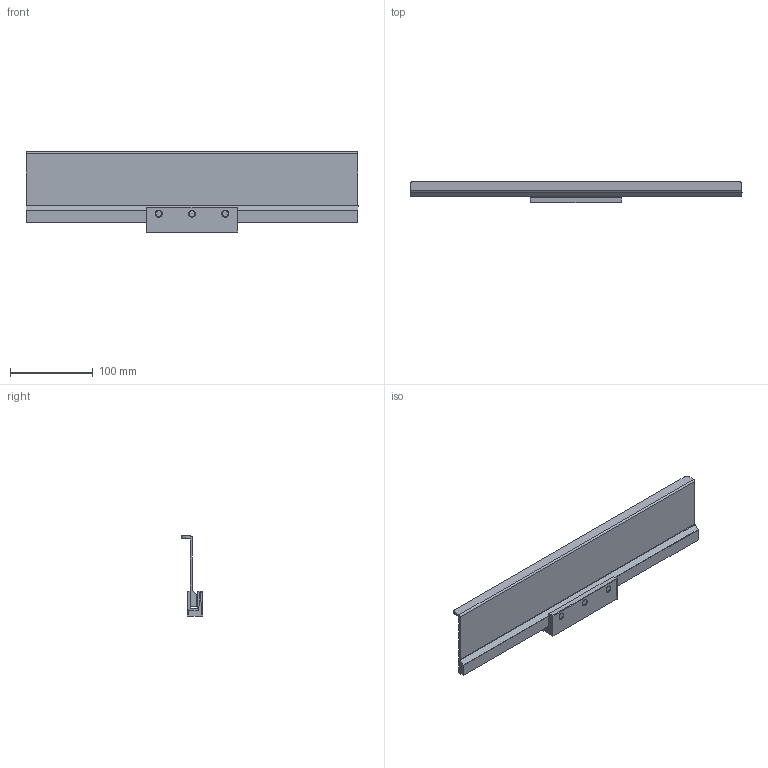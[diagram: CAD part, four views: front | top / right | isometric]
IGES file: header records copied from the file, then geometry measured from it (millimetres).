
Start section: SolidWorks IGES file using NURBS representation for surfaces
Global section: file name: G:\4- VARIOS\9 - Web Files\ARCHITECT S+\235##44-W.IGS; native system: SolidWorks 2016; preprocessor: SolidWorks 2016; author: vegrut01; date: 201023.161931; units: millimetre
Bounding box: 400 x 26.25 x 96.4 mm (x, y, z)
Surface area: 102872.5 mm2 (no closed solid volume)
Topology: 0 solids, 0 shells, 199 faces, 3681 edges, 4405 vertices
Faces by surface type: bspline 199
